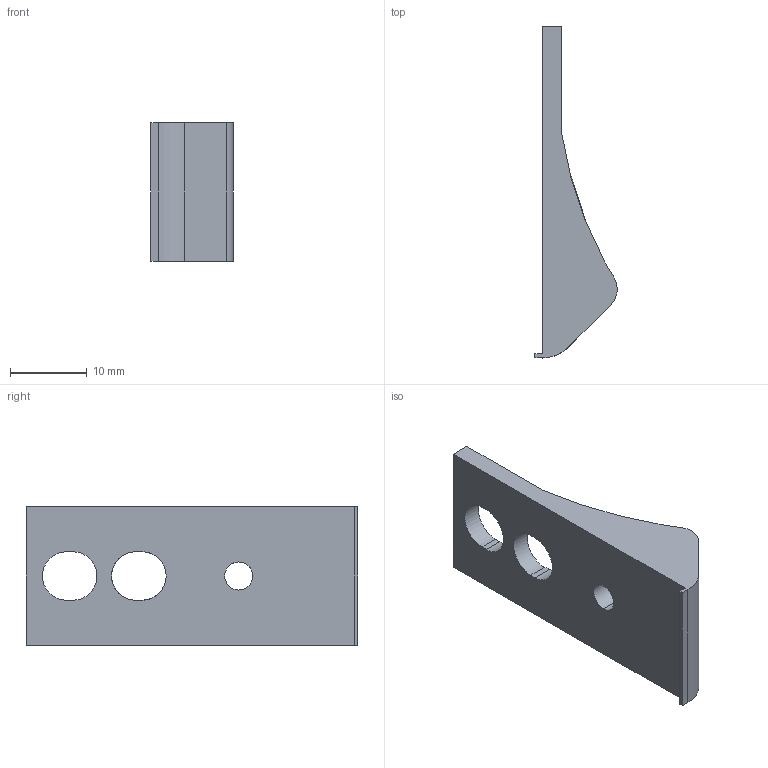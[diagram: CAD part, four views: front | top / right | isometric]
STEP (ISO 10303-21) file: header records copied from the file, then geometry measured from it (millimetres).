
FILE_DESCRIPTION( ( '' ), '1' );
FILE_NAME( 'C:/Users/dhek/Desktop/New folder/WL_L/9236460.stp', '2017-07-17T08:22:05', ( '' ), ( '' ), ' ', ' ', ' ' );
FILE_SCHEMA( ( 'automotive_design' ) );
Length unit declared in the file: millimetre
Products named in the file (1): 1
Bounding box: 10.71 x 43.18 x 18 mm (x, y, z)
Volume: 3401.8 mm3; surface area: 2175.5 mm2
Topology: 1 solids, 1 shells, 23 faces, 67 edges, 45 vertices
Faces by surface type: plane 14, cylinder 9
Entity records: 1641 total; most frequent: CARTESIAN_POINT 243, STYLED_ITEM 136, PRESENTATION_STYLE_ASSIGNMENT 136, COLOUR_RGB 136, ORIENTED_EDGE 134, DIRECTION 126, EDGE_CURVE 67, CURVE_STYLE 67
